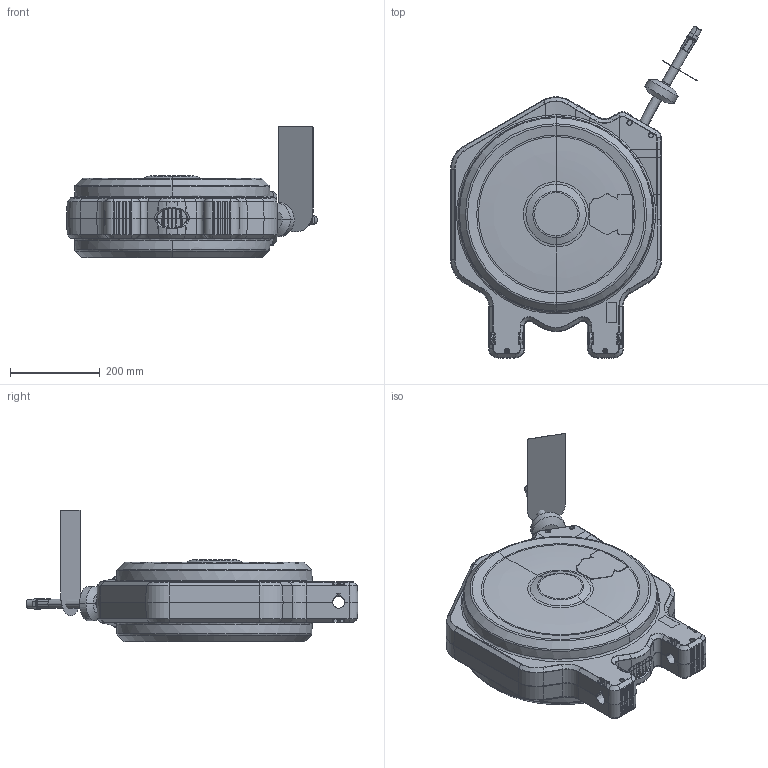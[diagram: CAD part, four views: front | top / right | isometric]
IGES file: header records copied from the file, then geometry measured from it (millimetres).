
Start section:  PTC IGES file: 24j126-en-e.igs
Global section: file name: 24j126-en-e.igs; native system: Creo Parametric by PTC Inc.; preprocessor: 2019030; author: qusrh3; organization: Unknown; date: 20191231.171722; units: inch
Bounding box: 558.92 x 739.79 x 293.86 mm (x, y, z)
Surface area: 3157730.3 mm2 (no closed solid volume)
Topology: 0 solids, 0 shells, 3459 faces, 18113 edges, 18113 vertices
Faces by surface type: bspline 1735, revolution 1714, extrusion 10
